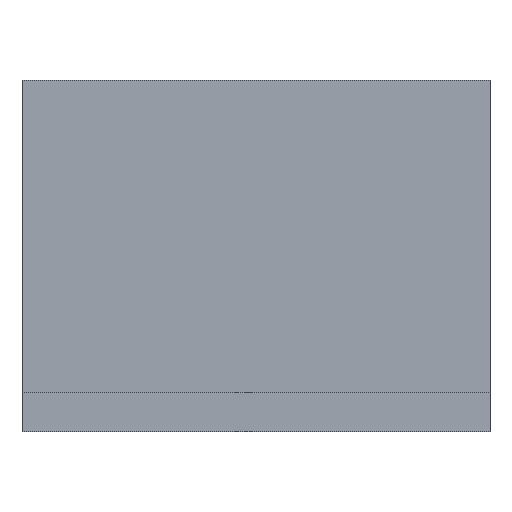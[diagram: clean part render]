
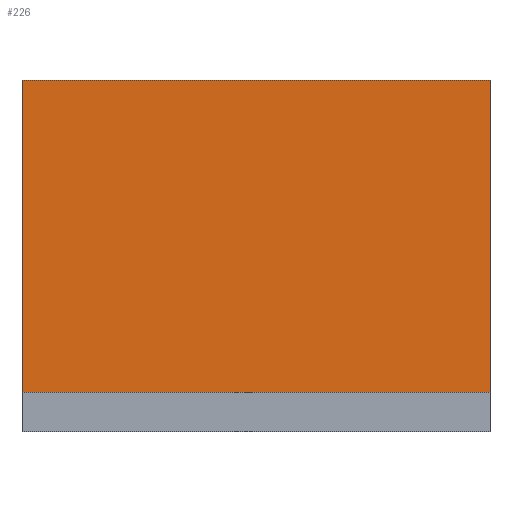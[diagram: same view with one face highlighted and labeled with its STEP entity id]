
A CAD part, front view. The second image highlights one B-rep face of the part: STEP entity #226.
In plain terms, the highlighted planar face has unit normal (0, -1, 0).
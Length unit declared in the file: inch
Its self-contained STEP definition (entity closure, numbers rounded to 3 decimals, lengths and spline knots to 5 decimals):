
#30 = DIRECTION ( 'NONE',  ( 1., 0., 0. ) ) ;
#32 = CARTESIAN_POINT ( 'NONE',  ( 0., 3.5, 4.5 ) ) ;
#67 = CARTESIAN_POINT ( 'NONE',  ( 0., 3.5, 4.5 ) ) ;
#79 = VERTEX_POINT ( 'NONE', #339 ) ;
#92 = DIRECTION ( 'NONE',  ( 0., 0., -1. ) ) ;
#96 = ORIENTED_EDGE ( 'NONE', *, *, #390, .T. ) ;
#102 = CARTESIAN_POINT ( 'NONE',  ( 6., 3.5, 4.5 ) ) ;
#115 = DIRECTION ( 'NONE',  ( 0., 0., -1. ) ) ;
#125 = AXIS2_PLACEMENT_3D ( 'NONE', #67, #297, #308 ) ;
#138 = CARTESIAN_POINT ( 'NONE',  ( 0., 3.5, 4.5 ) ) ;
#198 = ORIENTED_EDGE ( 'NONE', *, *, #289, .F. ) ;
#206 = LINE ( 'NONE', #138, #246 ) ;
#226 = ADVANCED_FACE ( 'NONE', ( #552 ), #464, .F. ) ;
#246 = VECTOR ( 'NONE', #428, 39.37008 ) ;
#254 = CARTESIAN_POINT ( 'NONE',  ( 0., 3.5, 0.5 ) ) ;
#255 = VERTEX_POINT ( 'NONE', #266 ) ;
#266 = CARTESIAN_POINT ( 'NONE',  ( 0., 3.5, 4.5 ) ) ;
#267 = EDGE_CURVE ( 'NONE', #419, #79, #581, .T. ) ;
#289 = EDGE_CURVE ( 'NONE', #255, #522, #206, .T. ) ;
#297 = DIRECTION ( 'NONE',  ( 0., 1., 0. ) ) ;
#308 = DIRECTION ( 'NONE',  ( 0., 0., 1. ) ) ;
#339 = CARTESIAN_POINT ( 'NONE',  ( 6., 3.5, 0.5 ) ) ;
#390 = EDGE_CURVE ( 'NONE', #255, #419, #523, .T. ) ;
#405 = ORIENTED_EDGE ( 'NONE', *, *, #267, .T. ) ;
#419 = VERTEX_POINT ( 'NONE', #626 ) ;
#428 = DIRECTION ( 'NONE',  ( 1., 0., 0. ) ) ;
#464 = PLANE ( 'NONE',  #125 ) ;
#493 = LINE ( 'NONE', #498, #674 ) ;
#498 = CARTESIAN_POINT ( 'NONE',  ( 6., 3.5, 4.5 ) ) ;
#505 = VECTOR ( 'NONE', #92, 39.37008 ) ;
#506 = EDGE_LOOP ( 'NONE', ( #405, #666, #198, #96 ) ) ;
#522 = VERTEX_POINT ( 'NONE', #102 ) ;
#523 = LINE ( 'NONE', #32, #505 ) ;
#544 = VECTOR ( 'NONE', #30, 39.37008 ) ;
#552 = FACE_OUTER_BOUND ( 'NONE', #506, .T. ) ;
#579 = EDGE_CURVE ( 'NONE', #522, #79, #493, .T. ) ;
#581 = LINE ( 'NONE', #254, #544 ) ;
#626 = CARTESIAN_POINT ( 'NONE',  ( 0., 3.5, 0.5 ) ) ;
#666 = ORIENTED_EDGE ( 'NONE', *, *, #579, .F. ) ;
#674 = VECTOR ( 'NONE', #115, 39.37008 ) ;
